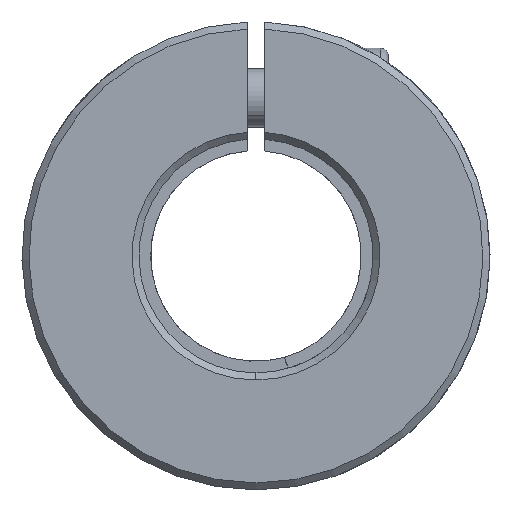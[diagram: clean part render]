
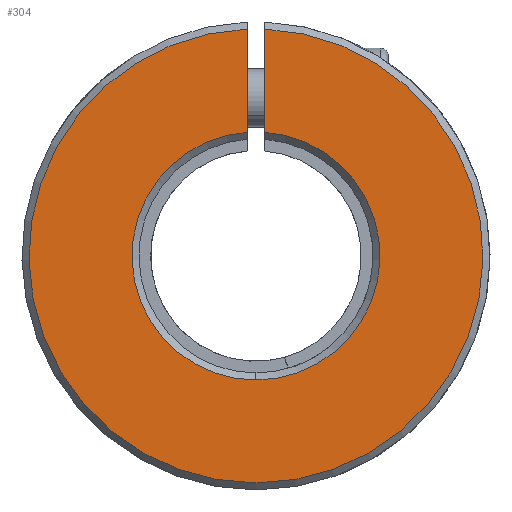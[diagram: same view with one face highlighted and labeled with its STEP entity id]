
A CAD part, front view. The second image highlights one B-rep face of the part: STEP entity #304.
In plain terms, the highlighted planar face has unit normal (0, -1, 0).
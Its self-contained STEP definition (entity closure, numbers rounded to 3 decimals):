
#50 = AXIS2_PLACEMENT_3D ( 'NONE', #2338, #1471, #5658 ) ;
#52 = DIRECTION ( 'NONE',  ( 0., 1., 0. ) ) ;
#73 = VERTEX_POINT ( 'NONE', #4065 ) ;
#211 = DIRECTION ( 'NONE',  ( 0., 0., 1. ) ) ;
#254 = EDGE_CURVE ( 'NONE', #793, #5230, #4323, .T. ) ;
#304 = ADVANCED_FACE ( 'NONE', ( #524 ), #3996, .F. ) ;
#524 = FACE_OUTER_BOUND ( 'NONE', #5796, .T. ) ;
#793 = VERTEX_POINT ( 'NONE', #1992 ) ;
#840 = ORIENTED_EDGE ( 'NONE', *, *, #254, .T. ) ;
#1090 = CARTESIAN_POINT ( 'NONE',  ( 0., -25., 0. ) ) ;
#1093 = CARTESIAN_POINT ( 'NONE',  ( -0.75, -25., 10.573 ) ) ;
#1289 = VECTOR ( 'NONE', #5154, 1000. ) ;
#1353 = VECTOR ( 'NONE', #3016, 1000. ) ;
#1471 = DIRECTION ( 'NONE',  ( 0., -1., 0. ) ) ;
#1816 = CIRCLE ( 'NONE', #50, 19.4 ) ;
#1832 = ORIENTED_EDGE ( 'NONE', *, *, #3215, .T. ) ;
#1992 = CARTESIAN_POINT ( 'NONE',  ( 0.75, -25., 19.385 ) ) ;
#2092 = DIRECTION ( 'NONE',  ( 0., 1., 0. ) ) ;
#2138 = AXIS2_PLACEMENT_3D ( 'NONE', #1090, #3316, #5246 ) ;
#2338 = CARTESIAN_POINT ( 'NONE',  ( 0., -25., 0. ) ) ;
#2674 = EDGE_CURVE ( 'NONE', #5230, #4558, #5358, .T. ) ;
#2689 = CARTESIAN_POINT ( 'NONE',  ( 0.75, -25., 10.573 ) ) ;
#2756 = AXIS2_PLACEMENT_3D ( 'NONE', #4447, #52, #5384 ) ;
#2868 = LINE ( 'NONE', #4678, #1289 ) ;
#3001 = ORIENTED_EDGE ( 'NONE', *, *, #2674, .T. ) ;
#3016 = DIRECTION ( 'NONE',  ( 0., 0., -1. ) ) ;
#3215 = EDGE_CURVE ( 'NONE', #73, #793, #1816, .T. ) ;
#3316 = DIRECTION ( 'NONE',  ( 0., 1., 0. ) ) ;
#3426 = CARTESIAN_POINT ( 'NONE',  ( 0., -25., 0. ) ) ;
#3936 = CARTESIAN_POINT ( 'NONE',  ( 0.75, -25., -2. ) ) ;
#3996 = PLANE ( 'NONE',  #2756 ) ;
#4065 = CARTESIAN_POINT ( 'NONE',  ( -0.75, -25., 19.385 ) ) ;
#4082 = ORIENTED_EDGE ( 'NONE', *, *, #5348, .T. ) ;
#4300 = EDGE_CURVE ( 'NONE', #4558, #5408, #4785, .T. ) ;
#4323 = LINE ( 'NONE', #3936, #1353 ) ;
#4344 = CARTESIAN_POINT ( 'NONE',  ( 0., -25., -10.6 ) ) ;
#4447 = CARTESIAN_POINT ( 'NONE',  ( 0., -25., 0. ) ) ;
#4558 = VERTEX_POINT ( 'NONE', #4344 ) ;
#4678 = CARTESIAN_POINT ( 'NONE',  ( -0.75, -25., -2. ) ) ;
#4691 = AXIS2_PLACEMENT_3D ( 'NONE', #3426, #2092, #211 ) ;
#4785 = CIRCLE ( 'NONE', #4691, 10.6 ) ;
#5154 = DIRECTION ( 'NONE',  ( 0., 0., 1. ) ) ;
#5230 = VERTEX_POINT ( 'NONE', #2689 ) ;
#5246 = DIRECTION ( 'NONE',  ( 0., 0., 1. ) ) ;
#5348 = EDGE_CURVE ( 'NONE', #5408, #73, #2868, .T. ) ;
#5358 = CIRCLE ( 'NONE', #2138, 10.6 ) ;
#5384 = DIRECTION ( 'NONE',  ( 0., 0., 1. ) ) ;
#5408 = VERTEX_POINT ( 'NONE', #1093 ) ;
#5578 = ORIENTED_EDGE ( 'NONE', *, *, #4300, .T. ) ;
#5658 = DIRECTION ( 'NONE',  ( 0., 0., 1. ) ) ;
#5796 = EDGE_LOOP ( 'NONE', ( #840, #3001, #5578, #4082, #1832 ) ) ;
